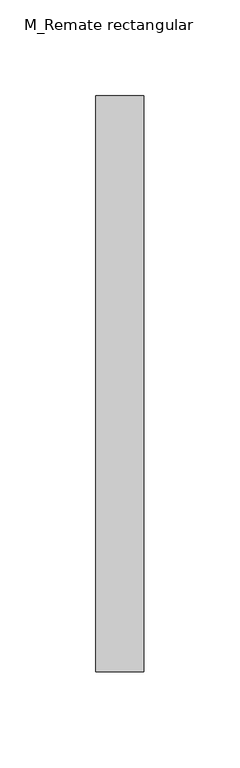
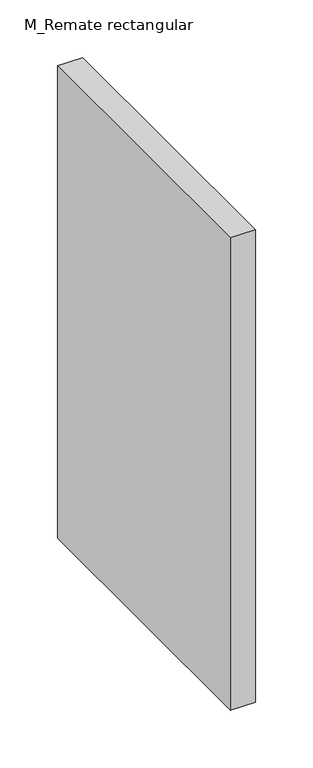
"""IFC4 building model written with IfcOpenShell, lengths in millimetres: duct fitting geometry, M_Remate rectangular : Estándar."""

from ifc_helpers import new_model, si_unit, frame, origin, place, context, project, spatial, polyline, outline, extrude, source, transform, mapped, element, save


def m_remate_rectangular_9f124e94(model_context):
    return source(origin(), model_context, "Body", "SweptSolid", [
        extrude(outline(polyline([(0.0, -150.0), (0.0, 150.0), (25.0, 150.0), (25.0, -150.0), (0.0, -150.0)])), frame((0.0, 0.0, -250.0), z_axis=(0.0, 0.0, 1.0), x_axis=(1.0, 0.0, 0.0)), (0.0, 0.0, 1.0), 500.0),
    ])


if __name__ == "__main__":
    model = new_model("IFC4")
    model_context = context("Model", 3, world=origin())
    ifc_project = project(units=[si_unit("LENGTHUNIT", "METRE", prefix="MILLI")], contexts=[model_context])
    site = spatial("IfcSite", under=ifc_project)
    building = spatial("IfcBuilding", under=site)
    placement = place(None, origin())
    m_remate_rectangular_shape = m_remate_rectangular_9f124e94(model_context)
    element("IfcDuctFitting", 1, ObjectType="M_Remate rectangular : Estándar", at=placement, inside=building, context=model_context, shape_type="MappedRepresentation", body=[
        mapped(m_remate_rectangular_shape, transform((0.0, 0.0, 0.0), x_axis=(1.0, 0.0, 0.0), y_axis=(0.0, 1.0, 0.0), z_axis=(0.0, 0.0, 1.0))),
    ])
    save(model, "model.ifc")
